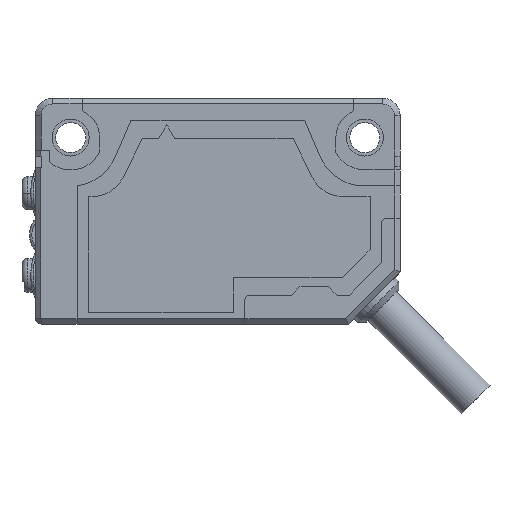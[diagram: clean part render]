
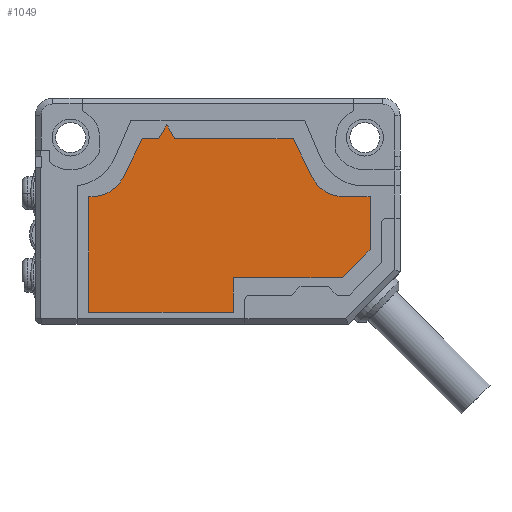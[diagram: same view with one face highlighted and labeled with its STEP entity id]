
A CAD part, left-side view. The second image highlights one B-rep face of the part: STEP entity #1049.
In plain terms, the highlighted planar face has unit normal (-1, 0, 0).
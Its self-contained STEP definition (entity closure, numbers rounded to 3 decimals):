
#903=CIRCLE('',#5041,3.);
#904=CIRCLE('',#5042,3.);
#1049=ADVANCED_FACE('',(#1425),#1276,.T.);
#1276=PLANE('',#5043);
#1425=FACE_OUTER_BOUND('',#1640,.T.);
#1640=EDGE_LOOP('',(#2126,#2127,#2128,#2129,#2130,#2131,#2132,#2133,#2134,
#2135,#2136,#2137,#2138,#2139,#2140,#2141));
#2126=ORIENTED_EDGE('',*,*,#3710,.F.);
#2127=ORIENTED_EDGE('',*,*,#3711,.F.);
#2128=ORIENTED_EDGE('',*,*,#3712,.F.);
#2129=ORIENTED_EDGE('',*,*,#3713,.F.);
#2130=ORIENTED_EDGE('',*,*,#3714,.F.);
#2131=ORIENTED_EDGE('',*,*,#3715,.F.);
#2132=ORIENTED_EDGE('',*,*,#3716,.F.);
#2133=ORIENTED_EDGE('',*,*,#3717,.F.);
#2134=ORIENTED_EDGE('',*,*,#3718,.F.);
#2135=ORIENTED_EDGE('',*,*,#3719,.F.);
#2136=ORIENTED_EDGE('',*,*,#3720,.F.);
#2137=ORIENTED_EDGE('',*,*,#3699,.F.);
#2138=ORIENTED_EDGE('',*,*,#3702,.F.);
#2139=ORIENTED_EDGE('',*,*,#3721,.F.);
#2140=ORIENTED_EDGE('',*,*,#3722,.F.);
#2141=ORIENTED_EDGE('',*,*,#3723,.F.);
#3255=VERTEX_POINT('',#6920);
#3256=VERTEX_POINT('',#6922);
#3257=VERTEX_POINT('',#6926);
#3264=VERTEX_POINT('',#6945);
#3265=VERTEX_POINT('',#6946);
#3266=VERTEX_POINT('',#6948);
#3267=VERTEX_POINT('',#6950);
#3268=VERTEX_POINT('',#6952);
#3269=VERTEX_POINT('',#6954);
#3270=VERTEX_POINT('',#6956);
#3271=VERTEX_POINT('',#6958);
#3272=VERTEX_POINT('',#6960);
#3273=VERTEX_POINT('',#6962);
#3274=VERTEX_POINT('',#6964);
#3275=VERTEX_POINT('',#6967);
#3276=VERTEX_POINT('',#6969);
#3699=EDGE_CURVE('',#3255,#3256,#4283,.T.);
#3702=EDGE_CURVE('',#3257,#3255,#4286,.T.);
#3710=EDGE_CURVE('',#3264,#3265,#4294,.T.);
#3711=EDGE_CURVE('',#3266,#3264,#4295,.T.);
#3712=EDGE_CURVE('',#3267,#3266,#4296,.T.);
#3713=EDGE_CURVE('',#3268,#3267,#4297,.T.);
#3714=EDGE_CURVE('',#3269,#3268,#4298,.T.);
#3715=EDGE_CURVE('',#3270,#3269,#4299,.T.);
#3716=EDGE_CURVE('',#3271,#3270,#4300,.T.);
#3717=EDGE_CURVE('',#3272,#3271,#4301,.T.);
#3718=EDGE_CURVE('',#3273,#3272,#903,.T.);
#3719=EDGE_CURVE('',#3274,#3273,#4302,.T.);
#3720=EDGE_CURVE('',#3256,#3274,#4303,.T.);
#3721=EDGE_CURVE('',#3275,#3257,#4304,.T.);
#3722=EDGE_CURVE('',#3276,#3275,#4305,.T.);
#3723=EDGE_CURVE('',#3265,#3276,#904,.T.);
#4283=LINE('',#6921,#4719);
#4286=LINE('',#6927,#4722);
#4294=LINE('',#6944,#4730);
#4295=LINE('',#6947,#4731);
#4296=LINE('',#6949,#4732);
#4297=LINE('',#6951,#4733);
#4298=LINE('',#6953,#4734);
#4299=LINE('',#6955,#4735);
#4300=LINE('',#6957,#4736);
#4301=LINE('',#6959,#4737);
#4302=LINE('',#6963,#4738);
#4303=LINE('',#6965,#4739);
#4304=LINE('',#6966,#4740);
#4305=LINE('',#6968,#4741);
#4719=VECTOR('',#5642,1.);
#4722=VECTOR('',#5647,1.);
#4730=VECTOR('',#5661,1.);
#4731=VECTOR('',#5662,1.);
#4732=VECTOR('',#5663,1.);
#4733=VECTOR('',#5664,1.);
#4734=VECTOR('',#5665,1.);
#4735=VECTOR('',#5666,1.);
#4736=VECTOR('',#5667,1.);
#4737=VECTOR('',#5668,1.);
#4738=VECTOR('',#5671,1.);
#4739=VECTOR('',#5672,1.);
#4740=VECTOR('',#5673,1.);
#4741=VECTOR('',#5674,1.);
#5041=AXIS2_PLACEMENT_3D('',#6961,#5669,#5670);
#5042=AXIS2_PLACEMENT_3D('',#6970,#5675,#5676);
#5043=AXIS2_PLACEMENT_3D('',#6971,#5677,#5678);
#5642=DIRECTION('',(0.,-0.5,-0.866));
#5647=DIRECTION('',(0.,-0.5,0.866));
#5661=DIRECTION('',(0.,-1.,0.));
#5662=DIRECTION('',(0.,0.,1.));
#5663=DIRECTION('',(0.,1.,0.));
#5664=DIRECTION('',(0.,0.,-1.));
#5665=DIRECTION('',(0.,1.,0.));
#5666=DIRECTION('',(0.,0.707,-0.707));
#5667=DIRECTION('',(0.,0.,-1.));
#5668=DIRECTION('',(0.,-1.,0.));
#5669=DIRECTION('',(-1.,0.,0.));
#5670=DIRECTION('',(0.,0.,1.));
#5671=DIRECTION('',(0.,-0.447,-0.894));
#5672=DIRECTION('',(0.,-1.,0.));
#5673=DIRECTION('',(0.,-1.,0.));
#5674=DIRECTION('',(0.,-0.447,0.894));
#5675=DIRECTION('',(-1.,0.,0.));
#5676=DIRECTION('',(0.,0.,-1.));
#5677=DIRECTION('',(-1.,0.,0.));
#5678=DIRECTION('',(0.,0.,-1.));
#6920=CARTESIAN_POINT('',(-5.25,4.4,-2.3));
#6921=CARTESIAN_POINT('',(-5.25,4.4,-2.3));
#6922=CARTESIAN_POINT('',(-5.25,3.707,-3.5));
#6926=CARTESIAN_POINT('',(-5.25,5.093,-3.5));
#6927=CARTESIAN_POINT('',(-5.25,4.4,-2.3));
#6944=CARTESIAN_POINT('',(-5.25,11.15,-8.5));
#6945=CARTESIAN_POINT('',(-5.25,11.15,-8.5));
#6946=CARTESIAN_POINT('',(-5.25,10.854,-8.5));
#6947=CARTESIAN_POINT('',(-5.25,11.15,-8.5));
#6948=CARTESIAN_POINT('',(-5.25,11.15,-18.5));
#6949=CARTESIAN_POINT('',(-5.25,11.15,-18.5));
#6950=CARTESIAN_POINT('',(-5.25,-1.35,-18.5));
#6951=CARTESIAN_POINT('',(-5.25,-1.35,-18.5));
#6952=CARTESIAN_POINT('',(-5.25,-1.35,-15.5));
#6953=CARTESIAN_POINT('',(-5.25,-1.35,-15.5));
#6954=CARTESIAN_POINT('',(-5.25,-10.75,-15.5));
#6955=CARTESIAN_POINT('',(-5.25,-10.75,-15.5));
#6956=CARTESIAN_POINT('',(-5.25,-13.15,-13.1));
#6957=CARTESIAN_POINT('',(-5.25,-13.15,-13.1));
#6958=CARTESIAN_POINT('',(-5.25,-13.15,-8.5));
#6959=CARTESIAN_POINT('',(-5.25,-13.15,-8.5));
#6960=CARTESIAN_POINT('',(-5.25,-10.854,-8.5));
#6961=CARTESIAN_POINT('',(-5.25,-10.854,-5.5));
#6962=CARTESIAN_POINT('',(-5.25,-8.171,-6.842));
#6963=CARTESIAN_POINT('',(-5.25,-6.5,-3.5));
#6964=CARTESIAN_POINT('',(-5.25,-6.5,-3.5));
#6965=CARTESIAN_POINT('',(-5.25,6.5,-3.5));
#6966=CARTESIAN_POINT('',(-5.25,6.5,-3.5));
#6967=CARTESIAN_POINT('',(-5.25,6.5,-3.5));
#6968=CARTESIAN_POINT('',(-5.25,6.5,-3.5));
#6969=CARTESIAN_POINT('',(-5.25,8.171,-6.842));
#6970=CARTESIAN_POINT('',(-5.25,10.854,-5.5));
#6971=CARTESIAN_POINT('',(-5.25,10.854,-5.5));
